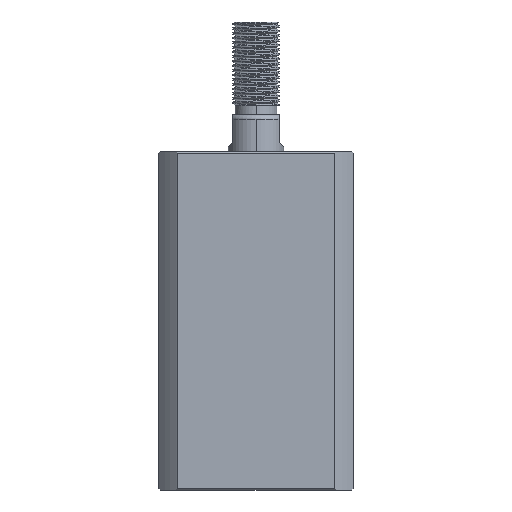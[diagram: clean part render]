
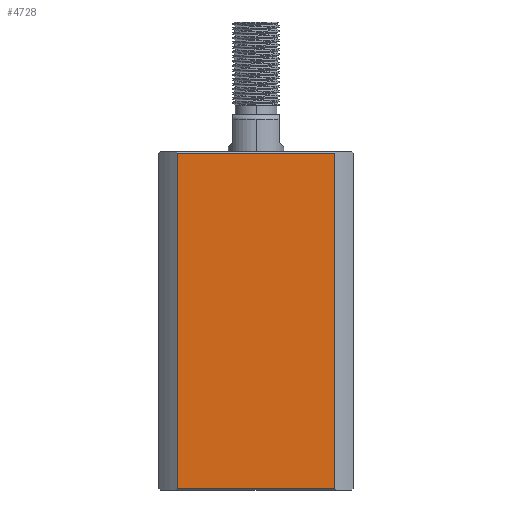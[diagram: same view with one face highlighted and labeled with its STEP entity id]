
A CAD part, left-side view. The second image highlights one B-rep face of the part: STEP entity #4728.
In plain terms, the highlighted planar face has unit normal (-1, 0, 0).
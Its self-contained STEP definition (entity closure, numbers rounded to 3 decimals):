
#366 = VECTOR ( 'NONE', #3123, 1000. ) ;
#613 = DIRECTION ( 'NONE',  ( 0., 1., 0. ) ) ;
#641 = VECTOR ( 'NONE', #7010, 1000. ) ;
#952 = CARTESIAN_POINT ( 'NONE',  ( -21., 16.971, 0.3 ) ) ;
#1163 = DIRECTION ( 'NONE',  ( 0., 1., 0. ) ) ;
#1662 = EDGE_CURVE ( 'NONE', #8351, #11900, #3460, .T. ) ;
#1954 = CARTESIAN_POINT ( 'NONE',  ( -21., -16.971, -227. ) ) ;
#2532 = VERTEX_POINT ( 'NONE', #15091 ) ;
#2645 = VECTOR ( 'NONE', #9038, 1000. ) ;
#3123 = DIRECTION ( 'NONE',  ( 0., 0., -1. ) ) ;
#3457 = CARTESIAN_POINT ( 'NONE',  ( -21., 21., 72.7 ) ) ;
#3460 = LINE ( 'NONE', #1954, #366 ) ;
#4096 = LINE ( 'NONE', #12765, #641 ) ;
#4207 = CARTESIAN_POINT ( 'NONE',  ( -21., -16.971, 72.7 ) ) ;
#4728 = ADVANCED_FACE ( 'NONE', ( #7409 ), #14523, .F. ) ;
#5030 = ORIENTED_EDGE ( 'NONE', *, *, #1662, .F. ) ;
#5123 = ORIENTED_EDGE ( 'NONE', *, *, #9282, .F. ) ;
#5374 = EDGE_CURVE ( 'NONE', #9294, #11900, #4096, .T. ) ;
#5559 = EDGE_LOOP ( 'NONE', ( #5123, #6201, #5030, #5921 ) ) ;
#5921 = ORIENTED_EDGE ( 'NONE', *, *, #13838, .T. ) ;
#6201 = ORIENTED_EDGE ( 'NONE', *, *, #5374, .T. ) ;
#7010 = DIRECTION ( 'NONE',  ( 0., -1., 0. ) ) ;
#7409 = FACE_OUTER_BOUND ( 'NONE', #5559, .T. ) ;
#7601 = DIRECTION ( 'NONE',  ( 1., 0., 0. ) ) ;
#8351 = VERTEX_POINT ( 'NONE', #4207 ) ;
#8630 = AXIS2_PLACEMENT_3D ( 'NONE', #12125, #7601, #613 ) ;
#8816 = LINE ( 'NONE', #14856, #2645 ) ;
#9038 = DIRECTION ( 'NONE',  ( 0., 0., 1. ) ) ;
#9282 = EDGE_CURVE ( 'NONE', #9294, #2532, #8816, .T. ) ;
#9294 = VERTEX_POINT ( 'NONE', #952 ) ;
#11593 = LINE ( 'NONE', #3457, #14701 ) ;
#11790 = CARTESIAN_POINT ( 'NONE',  ( -21., -16.971, 0.3 ) ) ;
#11900 = VERTEX_POINT ( 'NONE', #11790 ) ;
#12125 = CARTESIAN_POINT ( 'NONE',  ( -21., 21., 73. ) ) ;
#12765 = CARTESIAN_POINT ( 'NONE',  ( -21., 21., 0.3 ) ) ;
#13838 = EDGE_CURVE ( 'NONE', #8351, #2532, #11593, .T. ) ;
#14523 = PLANE ( 'NONE',  #8630 ) ;
#14701 = VECTOR ( 'NONE', #1163, 1000. ) ;
#14856 = CARTESIAN_POINT ( 'NONE',  ( -21., 16.971, -227. ) ) ;
#15091 = CARTESIAN_POINT ( 'NONE',  ( -21., 16.971, 72.7 ) ) ;
